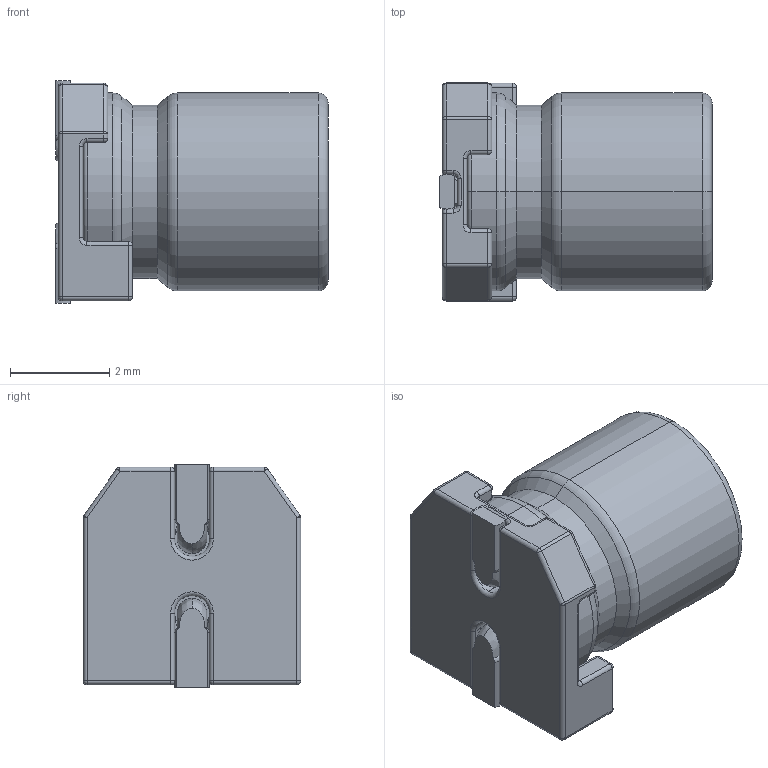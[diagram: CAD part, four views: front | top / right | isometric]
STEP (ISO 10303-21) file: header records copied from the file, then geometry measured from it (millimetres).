
FILE_DESCRIPTION((''),'2;1');
FILE_NAME('LIQUIDSMD4X55_ASM','2020-06-03T',('xy'),(''),'PRO/ENGINEER BY PARAMETRIC TECHNOLOGY CORPORATION, 2009380','PRO/ENGINEER BY PARAMETRIC TECHNOLOGY CORPORATION, 2009380','');
FILE_SCHEMA(('CONFIG_CONTROL_DESIGN'));
Length unit declared in the file: millimetre
Products named in the file (3): LIQUIDSMD4X55; ZB4A; LIQUIDSMD4X55_ASM
Assembly tree (2 placements, depth 2):
  LIQUIDSMD4X55_ASM
    LIQUIDSMD4X55
    ZB4A
Bounding box: 5.5 x 4.4 x 4.5 mm (x, y, z)
Volume: 70.8 mm3; surface area: 153.5 mm2
Topology: 2 solids, 2 shells, 368 faces, 880 edges, 524 vertices
Faces by surface type: plane 168, cylinder 99, torus 47, sphere 32, bspline 18, cone 4
Entity records: 11291 total; most frequent: CARTESIAN_POINT 2630, DIRECTION 1862, ORIENTED_EDGE 1752, EDGE_CURVE 876, AXIS2_PLACEMENT_3D 657, VECTOR 548, LINE 548, VERTEX_POINT 524
